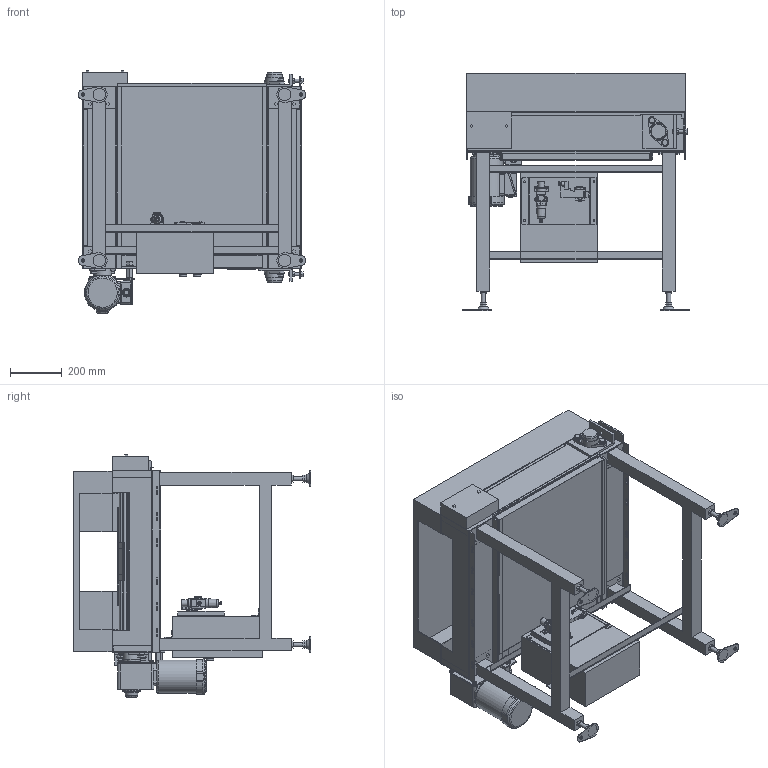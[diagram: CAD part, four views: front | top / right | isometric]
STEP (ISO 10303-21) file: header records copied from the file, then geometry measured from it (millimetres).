
FILE_DESCRIPTION (( 'STEP AP214' ), '1' );
FILE_NAME ('SLS-H-3-150-150-L.STEP', '2023-04-20T05:13:56', ( '' ), ( '' ), 'SwSTEP 2.0', 'SolidWorks 2017', '' );
FILE_SCHEMA (( 'AUTOMOTIVE_DESIGN' ));
Length unit declared in the file: millimetre
Products named in the file (1): SLS-H-3-150-150-L
Bounding box: 884 x 920.6 x 939.5 mm (x, y, z)
Volume: 49684391.7 mm3; surface area: 9112640.8 mm2
Topology: 82 solids, 82 shells, 3086 faces, 8278 edges, 5317 vertices
Faces by surface type: plane 2417, cylinder 497, cone 142, bspline 15, torus 11, sphere 4
Full cylindrical faces by diameter (mm): 2.459 x2, 3.2 x4, 4.386 x2, 6 x3, 6.5 x2, 6.8 x3, 7 x4, 7.9 x4, 8 x6, 8.376 x4, 8.5 x6, 9 x1, 9.7 x3, 9.9 x1, 10 x1, 10.5 x4, 11 x5, 11.8 x4, 12 x2, 12.3 x1, 13 x8, 13.8 x1, 14 x10, 15 x1, 15.4 x1, 16 x16, 18 x1, 19 x1, 20 x1, 21 x6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
Entity records: 134085 total; most frequent: CARTESIAN_POINT 22536, ORIENTED_EDGE 16024, DIRECTION 15131, EDGE_CURVE 8012, VECTOR 6509, LINE 6509, VERTEX_POINT 5258, AXIS2_PLACEMENT_3D 4311
